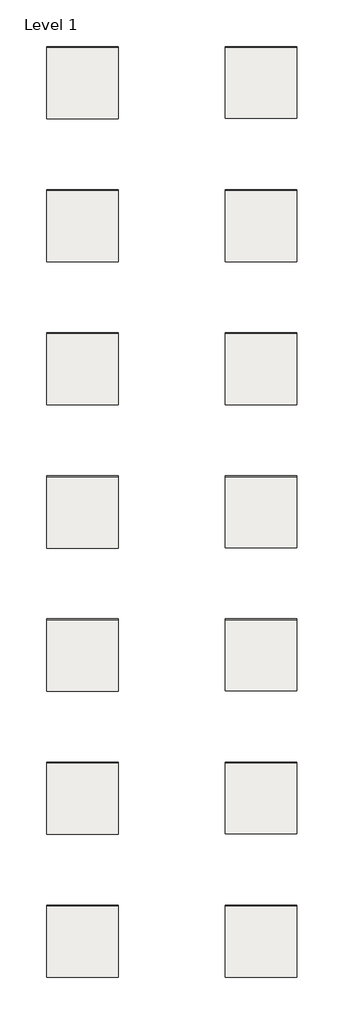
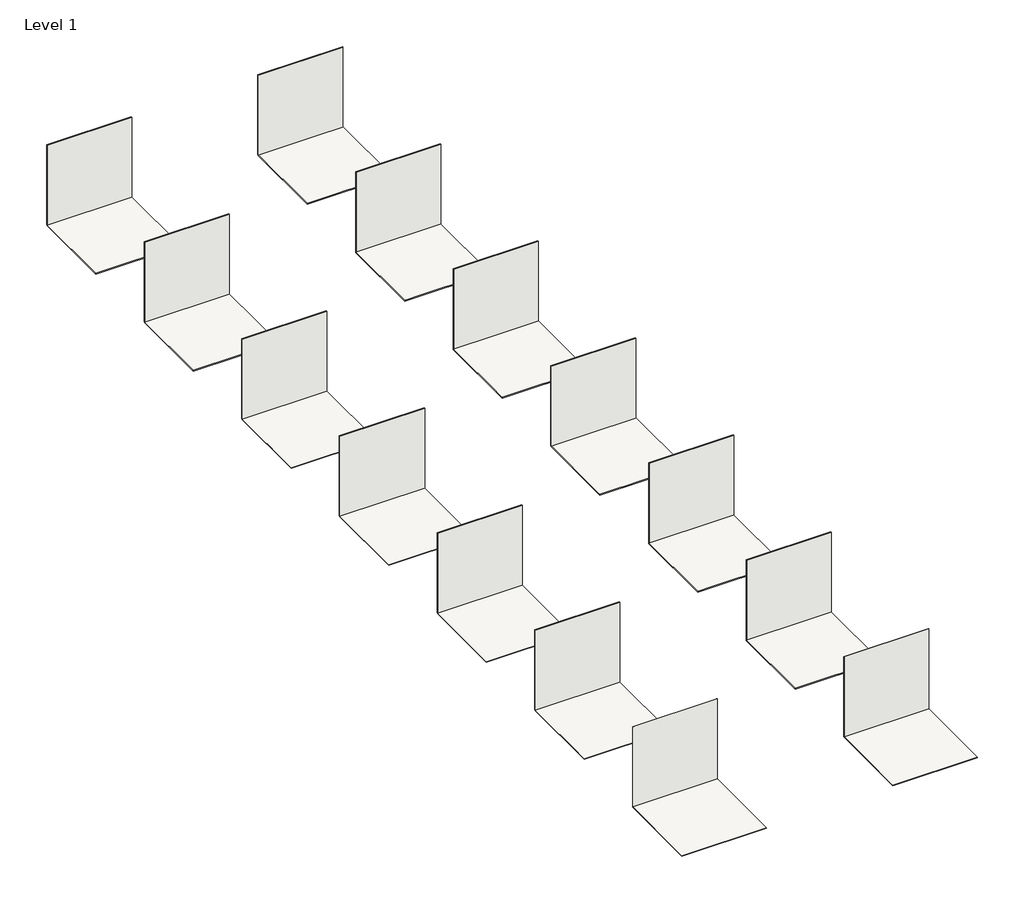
# One storey: 28 coverings.
"""IFC4 building model written with IfcOpenShell, lengths in millimetres."""

import ifcopenshell
import ifcopenshell.guid

model = None  # the IFC model being written
_history = None  # IfcOwnerHistory: only IFC2X3 demands one
_inside = {}  # id of a spatial element -> (the spatial element, [elements in it])
_under = {}  # id of a project, library or spatial element -> (it, [spatial elements below it])
_declared = {}  # id of a project -> (the project, [libraries it declares])
_typed = {}  # id of a type object -> (the type object, [elements of that type])
_made_of = {}  # id of a material, layer set ... -> (it, [elements and type objects made of it])


def new_model(schema):
    """Start an empty IFC model of exactly this schema.

    Asked for "IFC4X3", IfcOpenShell would pick the latest addendum, in which some entities
    have other attributes; the version numbers below select the first issue.
    IFC2X3 requires an IfcOwnerHistory on every rooted entity: one is made here for all.
    """
    global model, _history
    if schema == "IFC4X3":
        model = ifcopenshell.file(schema_version=(4, 3, 0, 0))
    else:
        model = ifcopenshell.file(schema=schema)
    _inside.clear()
    _under.clear()
    _declared.clear()
    _typed.clear()
    _made_of.clear()
    _history = None
    if model.schema == "IFC2X3":
        org = make("IfcOrganization", Name="unknown")
        user = make(
            "IfcPersonAndOrganization",
            ThePerson=make("IfcPerson", FamilyName="unknown"),
            TheOrganization=org,
        )
        app = make(
            "IfcApplication",
            ApplicationDeveloper=org,
            Version="unknown",
            ApplicationFullName="unknown",
            ApplicationIdentifier="unknown",
        )
        _history = make(
            "IfcOwnerHistory",
            OwningUser=user,
            OwningApplication=app,
            ChangeAction="ADDED",
            CreationDate=0,
        )
    return model


def make(cls, **values):
    """One entity of the class cls with the attributes given. An attribute that is None is left unset."""
    return model.create_entity(
        cls, **{name: value for name, value in values.items() if value is not None}
    )


def rooted(cls, **values):
    """An entity with a GlobalId (a new one), such as an element, a storey or a relation."""
    return make(cls, GlobalId=ifcopenshell.guid.new(), OwnerHistory=_history, **values)


def si_unit(unit_type, name, prefix=None):
    """IfcSIUnit, for example si_unit("LENGTHUNIT", "METRE", prefix="MILLI")."""
    return make("IfcSIUnit", UnitType=unit_type, Prefix=prefix, Name=name)


def assignment(units):
    """IfcUnitAssignment: the units of a project."""
    return None if units is None else make("IfcUnitAssignment", Units=units)


def point(xyz):
    """IfcCartesianPoint."""
    return None if xyz is None else make("IfcCartesianPoint", Coordinates=xyz)


def direction(xyz):
    """IfcDirection."""
    return None if xyz is None else make("IfcDirection", DirectionRatios=xyz)


def frame(location, z_axis=None, x_axis=None):
    """IfcAxis2Placement3D, a coordinate frame: its origin and axes. An axis left out is left unset."""
    return make(
        "IfcAxis2Placement3D",
        Location=point(location),
        Axis=direction(z_axis),
        RefDirection=direction(x_axis),
    )


def origin():
    """The frame at (0, 0, 0) with its axes left unset."""
    return frame((0.0, 0.0, 0.0))


def origin_with_axes():
    """The frame at (0, 0, 0) with the z axis (0, 0, 1) and the x axis (1, 0, 0) written out."""
    return frame((0.0, 0.0, 0.0), z_axis=(0.0, 0.0, 1.0), x_axis=(1.0, 0.0, 0.0))


def place(relative_to, where):
    """IfcLocalPlacement: puts the frame where relative to a parent placement (None: the world)."""
    return make(
        "IfcLocalPlacement", PlacementRelTo=relative_to, RelativePlacement=where
    )


def context(
    kind, dimensions, precision=None, world=None, true_north=None, identifier=None
):
    """IfcGeometricRepresentationContext, for example the 3D "Model" context."""
    return make(
        "IfcGeometricRepresentationContext",
        ContextIdentifier=identifier,
        ContextType=kind,
        CoordinateSpaceDimension=dimensions,
        Precision=precision,
        WorldCoordinateSystem=world,
        TrueNorth=true_north,
    )


def project(units=None, contexts=None):
    """IfcProject with its units and contexts."""
    return rooted(
        "IfcProject",
        Name="project",
        RepresentationContexts=contexts,
        UnitsInContext=assignment(units),
    )


def spatial(cls, under=None, at=None, **own):
    """A site, building, storey or space (cls), placed at a placement, below another one or the project."""
    s = rooted(cls, ObjectPlacement=at, **own)
    if under is not None:
        _under.setdefault(under.id(), (under, []))[1].append(s)
    return s


def polyline(points):
    """IfcPolyline through the points."""
    return make("IfcPolyline", Points=[point(p) for p in points])


def outline(outer, holes=None, kind="AREA"):
    """IfcArbitraryClosedProfileDef: a profile drawn as a closed curve; with holes, ...WithVoids."""
    if holes is None:
        return make("IfcArbitraryClosedProfileDef", ProfileType=kind, OuterCurve=outer)
    return make(
        "IfcArbitraryProfileDefWithVoids",
        ProfileType=kind,
        OuterCurve=outer,
        InnerCurves=holes,
    )


def extrude(swept, where, along, depth):
    """IfcExtrudedAreaSolid: the profile swept, set in the frame where, extruded along a direction by depth."""
    return make(
        "IfcExtrudedAreaSolid",
        SweptArea=swept,
        Position=where,
        ExtrudedDirection=direction(along),
        Depth=depth,
    )


def shape(context_of_items, identifier, shape_type, items):
    """IfcShapeRepresentation: the items that make up one representation, for example the "Body"."""
    return make(
        "IfcShapeRepresentation",
        ContextOfItems=context_of_items,
        RepresentationIdentifier=identifier,
        RepresentationType=shape_type,
        Items=items,
    )


def made_of(thing, what):
    """Note that an element or type object is made of a material, layer set ...; save() writes the relation."""
    if what is not None:
        _made_of.setdefault(what.id(), (what, []))[1].append(thing)
    return thing


def element(
    cls,
    number,
    at=None,
    inside=None,
    cuts=None,
    type_object=None,
    material=None,
    context=None,
    identifier="Body",
    shape_type=None,
    held_by="IfcProductDefinitionShape",
    body=None,
    shapes=None,
    **own,
):
    """One element of the class cls, such as IfcWall. Its Tag is "e" and its number.

    at: its placement. inside: the storey or other place that contains it. cuts: it is an
    opening in that element (IfcRelVoidsElement). A single representation is given by context,
    identifier, shape_type and body (its items); several are given by shapes. held_by: the class
    of the entity that holds the representations. save() writes the other relations.
    """
    e = rooted(cls, Tag="e%d" % number, ObjectPlacement=at, **own)
    if body is not None:
        shapes = [shape(context, identifier, shape_type, body)]
    if shapes is not None:
        e.Representation = make(held_by, Representations=shapes)
    if inside is not None:
        _inside.setdefault(inside.id(), (inside, []))[1].append(e)
    if cuts is not None:
        rooted(
            "IfcRelVoidsElement", RelatingBuildingElement=cuts, RelatedOpeningElement=e
        )
    if type_object is not None:
        _typed.setdefault(type_object.id(), (type_object, []))[1].append(e)
    return made_of(e, material)


def aggregate(whole, parts):
    """IfcRelAggregates: a whole, such as a stair, and the parts it consists of."""
    return rooted("IfcRelAggregates", RelatingObject=whole, RelatedObjects=parts)


def save(model, path):
    """Write the relations noted so far, then the file.

    IfcRelAggregates (storeys below a building ...), IfcRelContainedInSpatialStructure (elements
    in a storey), IfcRelDefinesByType, IfcRelAssociatesMaterial and IfcRelDeclares: one each for
    every whole, place, type object, material and project.
    """
    for whole, parts in _under.values():
        aggregate(whole, parts)
    for where, things in _inside.values():
        rooted(
            "IfcRelContainedInSpatialStructure",
            RelatedElements=things,
            RelatingStructure=where,
        )
    for kind, things in _typed.values():
        rooted("IfcRelDefinesByType", RelatedObjects=things, RelatingType=kind)
    for what, things in _made_of.values():
        rooted("IfcRelAssociatesMaterial", RelatedObjects=things, RelatingMaterial=what)
    for by, libraries in _declared.values():
        rooted("IfcRelDeclares", RelatingContext=by, RelatedDefinitions=libraries)
    model.write(path)


model = new_model("IFC4")

# Units and contexts
model_context = context("Model", 3, world=origin())
ifc_project = project(units=[si_unit("LENGTHUNIT", "METRE", prefix="MILLI")], contexts=[model_context])

# Site, building, storey
site = spatial("IfcSite", under=ifc_project)
building = spatial("IfcBuilding", under=site)
storey = spatial("IfcBuildingStorey", under=building, Name="Level 1", Elevation=0.0)

# Coverings
placement = place(None, origin())
element("IfcCovering", 1, ObjectType="REVIGRÉS-STATUARIO WHITE-BASE-29,5x59,2-MATTRECT-WHITE", at=placement, inside=storey, context=model_context, shape_type="SweptSolid", body=[
    extrude(outline(polyline([(3198.642714, 3103.1757974), (2198.642714, 3103.1757974), (2198.642714, 3112.9757974), (3198.642714, 3112.9757974), (3198.642714, 3103.1757974)])), origin_with_axes(), (0.0, 0.0, 1.0), 1000.0),
])
element("IfcCovering", 2, ObjectType="REVIGRÉS-STATUARIO WHITE-BASE-29,5x59,2-POL-WHITE", at=placement, inside=storey, context=model_context, shape_type="SweptSolid", body=[
    extrude(outline(polyline([(5698.642714, 3108.0757974), (5698.642714, 2108.0757974), (4698.642714, 2108.0757974), (4698.642714, 3108.0757974), (5698.642714, 3108.0757974)])), frame((0.0, 0.0, -9.8), z_axis=(0.0, 0.0, 1.0), x_axis=(1.0, 0.0, 0.0)), (0.0, 0.0, 1.0), 9.8),
])
element("IfcCovering", 3, ObjectType="REVIGRÉS-STATUARIO WHITE-BASE-29,5x59,2-POL-WHITE", at=placement, inside=storey, context=model_context, shape_type="SweptSolid", body=[
    extrude(outline(polyline([(5698.642714, 3103.1757974), (4698.642714, 3103.1757974), (4698.642714, 3112.9757974), (5698.642714, 3112.9757974), (5698.642714, 3103.1757974)])), origin_with_axes(), (0.0, 0.0, 1.0), 1000.0),
])
element("IfcCovering", 4, ObjectType="REVIGRÉS-STATUARIO WHITE-BASE-29,5x59,2-MATTRECT-WHITE", at=placement, inside=storey, context=model_context, shape_type="SweptSolid", body=[
    extrude(outline(polyline([(3198.642714, 3103.1757974), (3198.642714, 2103.8257974), (2198.642714, 2103.8257974), (2198.642714, 3103.1757974), (3198.642714, 3103.1757974)])), frame((0.0, 0.0, -9.8), z_axis=(0.0, 0.0, 1.0), x_axis=(1.0, 0.0, 0.0)), (0.0, 0.0, 1.0), 9.8),
])
element("IfcCovering", 5, ObjectType="REVIGRÉS-STATUARIO WHITE-BASE-59,2X59,2-MATTRECT-WHITE", at=placement, inside=storey, context=model_context, shape_type="SweptSolid", body=[
    extrude(outline(polyline([(3198.642714, 1103.1757974), (2198.642714, 1103.1757974), (2198.642714, 1112.9757974), (3198.642714, 1112.9757974), (3198.642714, 1103.1757974)])), origin_with_axes(), (0.0, 0.0, 1.0), 1000.0),
])
element("IfcCovering", 6, ObjectType="REVIGRÉS-STATUARIO WHITE-BASE-59,2X59,2-POL-WHITE", at=placement, inside=storey, context=model_context, shape_type="SweptSolid", body=[
    extrude(outline(polyline([(5698.642714, 1108.0757974), (5698.642714, 108.0757974), (4698.642714, 108.0757974), (4698.642714, 1108.0757974), (5698.642714, 1108.0757974)])), frame((0.0, 0.0, -9.8), z_axis=(0.0, 0.0, 1.0), x_axis=(1.0, 0.0, 0.0)), (0.0, 0.0, 1.0), 9.8),
])
element("IfcCovering", 7, ObjectType="REVIGRÉS-STATUARIO WHITE-BASE-59,2X59,2-POL-WHITE", at=placement, inside=storey, context=model_context, shape_type="SweptSolid", body=[
    extrude(outline(polyline([(5698.642714, 1103.1757974), (4698.642714, 1103.1757974), (4698.642714, 1112.9757974), (5698.642714, 1112.9757974), (5698.642714, 1103.1757974)])), origin_with_axes(), (0.0, 0.0, 1.0), 1000.0),
])
element("IfcCovering", 8, ObjectType="REVIGRÉS-STATUARIO WHITE-BASE-59,2X59,2-MATTRECT-WHITE", at=placement, inside=storey, context=model_context, shape_type="SweptSolid", body=[
    extrude(outline(polyline([(3198.642714, 1103.1757974), (3198.642714, 103.8257974), (2198.642714, 103.8257974), (2198.642714, 1103.1757974), (3198.642714, 1103.1757974)])), frame((0.0, 0.0, -9.8), z_axis=(0.0, 0.0, 1.0), x_axis=(1.0, 0.0, 0.0)), (0.0, 0.0, 1.0), 9.8),
])
element("IfcCovering", 9, ObjectType="REVIGRÉS-STATUARIO WHITE-BASE-44,35x88,9-MATTRECT-WHITE", at=placement, inside=storey, context=model_context, shape_type="SweptSolid", body=[
    extrude(outline(polyline([(3198.642714, -2897.1742026), (2198.642714, -2897.1742026), (2198.642714, -2886.6742026), (3198.642714, -2886.6742026), (3198.642714, -2897.1742026)])), origin_with_axes(), (0.0, 0.0, 1.0), 1000.0),
])
element("IfcCovering", 10, ObjectType="REVIGRÉS-STATUARIO WHITE-BASE-44,35x88,9-POL-WHITE", at=placement, inside=storey, context=model_context, shape_type="SweptSolid", body=[
    extrude(outline(polyline([(5698.642714, -2891.9242026), (5698.642714, -3891.9242026), (4698.642714, -3891.9242026), (4698.642714, -2891.9242026), (5698.642714, -2891.9242026)])), frame((0.0, 0.0, -10.5), z_axis=(0.0, 0.0, 1.0), x_axis=(1.0, 0.0, 0.0)), (0.0, 0.0, 1.0), 10.5),
])
element("IfcCovering", 11, ObjectType="REVIGRÉS-STATUARIO WHITE-BASE-44,35x88,9-POL-WHITE", at=placement, inside=storey, context=model_context, shape_type="SweptSolid", body=[
    extrude(outline(polyline([(5698.642714, -2897.1742026), (4698.642714, -2897.1742026), (4698.642714, -2886.6742026), (5698.642714, -2886.6742026), (5698.642714, -2897.1742026)])), origin_with_axes(), (0.0, 0.0, 1.0), 1000.0),
])
element("IfcCovering", 12, ObjectType="REVIGRÉS-STATUARIO WHITE-BASE-44,35x88,9-MATTRECT-WHITE", at=placement, inside=storey, context=model_context, shape_type="SweptSolid", body=[
    extrude(outline(polyline([(3198.642714, -2897.1742026), (3198.642714, -3896.1742026), (2198.642714, -3896.1742026), (2198.642714, -2897.1742026), (3198.642714, -2897.1742026)])), frame((0.0, 0.0, -10.5), z_axis=(0.0, 0.0, 1.0), x_axis=(1.0, 0.0, 0.0)), (0.0, 0.0, 1.0), 10.5),
])
element("IfcCovering", 13, ObjectType="REVIGRÉS-STATUARIO WHITE-BASE-88,9x88,9-MATTRECT-WHITE", at=placement, inside=storey, context=model_context, shape_type="SweptSolid", body=[
    extrude(outline(polyline([(3198.642714, -4897.1742026), (2198.642714, -4897.1742026), (2198.642714, -4886.6742026), (3198.642714, -4886.6742026), (3198.642714, -4897.1742026)])), origin_with_axes(), (0.0, 0.0, 1.0), 1000.0),
])
element("IfcCovering", 14, ObjectType="REVIGRÉS-STATUARIO WHITE-BASE-88,9x88,9-POL-WHITE", at=placement, inside=storey, context=model_context, shape_type="SweptSolid", body=[
    extrude(outline(polyline([(5698.642714, -4891.9242026), (5698.642714, -5891.9242026), (4698.642714, -5891.9242026), (4698.642714, -4891.9242026), (5698.642714, -4891.9242026)])), frame((0.0, 0.0, -10.5), z_axis=(0.0, 0.0, 1.0), x_axis=(1.0, 0.0, 0.0)), (0.0, 0.0, 1.0), 10.5),
])
element("IfcCovering", 15, ObjectType="REVIGRÉS-STATUARIO WHITE-BASE-88,9x88,9-POL-WHITE", at=placement, inside=storey, context=model_context, shape_type="SweptSolid", body=[
    extrude(outline(polyline([(5698.642714, -4897.1742026), (4698.642714, -4897.1742026), (4698.642714, -4886.6742026), (5698.642714, -4886.6742026), (5698.642714, -4897.1742026)])), origin_with_axes(), (0.0, 0.0, 1.0), 1000.0),
])
element("IfcCovering", 16, ObjectType="REVIGRÉS-STATUARIO WHITE-BASE-88,9x88,9-MATTRECT-WHITE", at=placement, inside=storey, context=model_context, shape_type="SweptSolid", body=[
    extrude(outline(polyline([(3198.642714, -4897.1742026), (3198.642714, -5896.8242026), (2198.642714, -5896.8242026), (2198.642714, -4897.1742026), (3198.642714, -4897.1742026)])), frame((0.0, 0.0, -10.5), z_axis=(0.0, 0.0, 1.0), x_axis=(1.0, 0.0, 0.0)), (0.0, 0.0, 1.0), 10.5),
])
element("IfcCovering", 17, ObjectType="REVIGRÉS-STATUARIO WHITE-BASE-59,2X118,6-MATTRECT-WHITE", at=placement, inside=storey, context=model_context, shape_type="SweptSolid", body=[
    extrude(outline(polyline([(3198.642714, -896.8242026), (2198.642714, -896.8242026), (2198.642714, -887.0242026), (3198.642714, -887.0242026), (3198.642714, -896.8242026)])), origin_with_axes(), (0.0, 0.0, 1.0), 1000.0),
])
element("IfcCovering", 18, ObjectType="REVIGRÉS-STATUARIO WHITE-BASE-59,2X118,6-POL-WHITE", at=placement, inside=storey, context=model_context, shape_type="SweptSolid", body=[
    extrude(outline(polyline([(5698.642714, -891.9242026), (5698.642714, -1891.9242026), (4698.642714, -1891.9242026), (4698.642714, -891.9242026), (5698.642714, -891.9242026)])), frame((0.0, 0.0, -9.8), z_axis=(0.0, 0.0, 1.0), x_axis=(1.0, 0.0, 0.0)), (0.0, 0.0, 1.0), 9.8),
])
element("IfcCovering", 19, ObjectType="REVIGRÉS-STATUARIO WHITE-BASE-59,2X118,6-POL-WHITE", at=placement, inside=storey, context=model_context, shape_type="SweptSolid", body=[
    extrude(outline(polyline([(5698.642714, -896.8242026), (4698.642714, -896.8242026), (4698.642714, -887.0242026), (5698.642714, -887.0242026), (5698.642714, -896.8242026)])), origin_with_axes(), (0.0, 0.0, 1.0), 1000.0),
])
element("IfcCovering", 20, ObjectType="REVIGRÉS-STATUARIO WHITE-BASE-59,2X118,6-MATTRECT-WHITE", at=placement, inside=storey, context=model_context, shape_type="SweptSolid", body=[
    extrude(outline(polyline([(3198.642714, -896.8242026), (3198.642714, -1896.1742026), (2198.642714, -1896.1742026), (2198.642714, -896.8242026), (3198.642714, -896.8242026)])), frame((0.0, 0.0, -9.8), z_axis=(0.0, 0.0, 1.0), x_axis=(1.0, 0.0, 0.0)), (0.0, 0.0, 1.0), 9.8),
])
element("IfcCovering", 21, ObjectType="REVIGRÉS-STATUARIO WHITE-BASE-119,8x119,8-MATTRECT-WHITE", at=placement, inside=storey, context=model_context, shape_type="SweptSolid", body=[
    extrude(outline(polyline([(3198.642714, -6896.4242026), (2198.642714, -6896.4242026), (2198.642714, -6887.4242026), (3198.642714, -6887.4242026), (3198.642714, -6896.4242026)])), origin_with_axes(), (0.0, 0.0, 1.0), 1000.0),
])
element("IfcCovering", 22, ObjectType="REVIGRÉS-STATUARIO WHITE-BASE-119,8x119,8-POL-WHITE", at=placement, inside=storey, context=model_context, shape_type="SweptSolid", body=[
    extrude(outline(polyline([(5698.642714, -6891.9242026), (5698.642714, -7891.9242026), (4698.642714, -7891.9242026), (4698.642714, -6891.9242026), (5698.642714, -6891.9242026)])), frame((0.0, 0.0, -9.0), z_axis=(0.0, 0.0, 1.0), x_axis=(1.0, 0.0, 0.0)), (0.0, 0.0, 1.0), 9.0),
])
element("IfcCovering", 23, ObjectType="REVIGRÉS-STATUARIO WHITE-BASE-119,8x119,8-POL-WHITE", at=placement, inside=storey, context=model_context, shape_type="SweptSolid", body=[
    extrude(outline(polyline([(5698.642714, -6896.4242026), (4698.642714, -6896.4242026), (4698.642714, -6887.4242026), (5698.642714, -6887.4242026), (5698.642714, -6896.4242026)])), origin_with_axes(), (0.0, 0.0, 1.0), 1000.0),
])
element("IfcCovering", 24, ObjectType="REVIGRÉS-STATUARIO WHITE-BASE-119,8x119,8-MATTRECT-WHITE", at=placement, inside=storey, context=model_context, shape_type="SweptSolid", body=[
    extrude(outline(polyline([(3198.642714, -6896.4242026), (3198.642714, -7896.4242026), (2198.642714, -7896.4242026), (2198.642714, -6896.4242026), (3198.642714, -6896.4242026)])), frame((0.0, 0.0, -9.0), z_axis=(0.0, 0.0, 1.0), x_axis=(1.0, 0.0, 0.0)), (0.0, 0.0, 1.0), 9.0),
])
element("IfcCovering", 25, ObjectType="REVIGRÉS-STATUARIO WHITE-BASE-119,8x277,8-MATTRECT-WHITE", at=placement, inside=storey, context=model_context, shape_type="SweptSolid", body=[
    extrude(outline(polyline([(3198.642714, -8894.9242026), (2198.642714, -8894.9242026), (2198.642714, -8888.9242026), (3198.642714, -8888.9242026), (3198.642714, -8894.9242026)])), origin_with_axes(), (0.0, 0.0, 1.0), 1000.0),
])
element("IfcCovering", 26, ObjectType="REVIGRÉS-STATUARIO WHITE-BASE-119,8x277,8-POL-WHITE", at=placement, inside=storey, context=model_context, shape_type="SweptSolid", body=[
    extrude(outline(polyline([(5698.642714, -8891.9242026), (5698.642714, -9891.9242026), (4698.642714, -9891.9242026), (4698.642714, -8891.9242026), (5698.642714, -8891.9242026)])), frame((0.0, 0.0, -6.0), z_axis=(0.0, 0.0, 1.0), x_axis=(1.0, 0.0, 0.0)), (0.0, 0.0, 1.0), 6.0),
])
element("IfcCovering", 27, ObjectType="REVIGRÉS-STATUARIO WHITE-BASE-119,8x277,8-POL-WHITE", at=placement, inside=storey, context=model_context, shape_type="SweptSolid", body=[
    extrude(outline(polyline([(5698.642714, -8894.9242026), (4698.642714, -8894.9242026), (4698.642714, -8888.9242026), (5698.642714, -8888.9242026), (5698.642714, -8894.9242026)])), origin_with_axes(), (0.0, 0.0, 1.0), 1000.0),
])
element("IfcCovering", 28, ObjectType="REVIGRÉS-STATUARIO WHITE-BASE-119,8x277,8-MATTRECT-WHITE", at=placement, inside=storey, context=model_context, shape_type="SweptSolid", body=[
    extrude(outline(polyline([(3198.642714, -8894.9242026), (3198.642714, -9896.8242026), (2198.642714, -9896.8242026), (2198.642714, -8894.9242026), (3198.642714, -8894.9242026)])), frame((0.0, 0.0, -6.0), z_axis=(0.0, 0.0, 1.0), x_axis=(1.0, 0.0, 0.0)), (0.0, 0.0, 1.0), 6.0),
])

save(model, "model.ifc")
